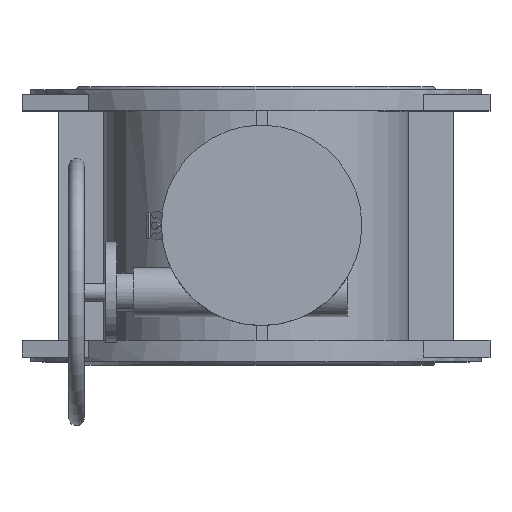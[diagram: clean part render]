
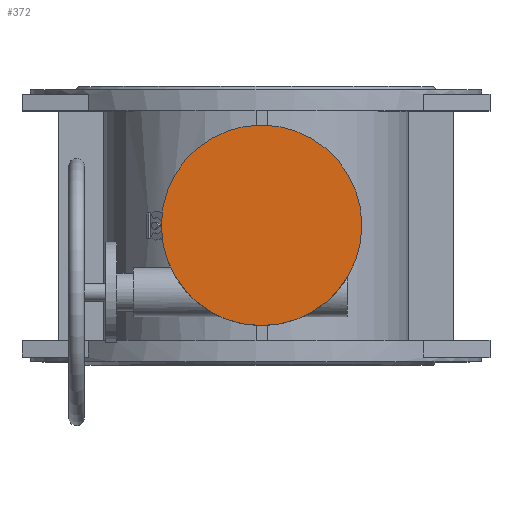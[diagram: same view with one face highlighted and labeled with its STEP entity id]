
A CAD part, top view. The second image highlights one B-rep face of the part: STEP entity #372.
In plain terms, the highlighted planar face has unit normal (0, 0, 1).
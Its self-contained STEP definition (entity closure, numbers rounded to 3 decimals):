
#372=ADVANCED_FACE('',(#1948),#1950,.T.);
#1948=FACE_BOUND('',#1949,.T.);
#1949=EDGE_LOOP('',(#3328));
#1950=PLANE('',#1951);
#1951=AXIS2_PLACEMENT_3D('',#1952,#1953,#1954);
#1952=CARTESIAN_POINT('',(5.,0.,309.));
#1953=DIRECTION('',(0.,0.,1.));
#1954=DIRECTION('',(0.,-1.,0.));
#3328=ORIENTED_EDGE('',*,*,#3883,.T.);
#3883=EDGE_CURVE('',#4297,#4297,#4298,.T.);
#4297=VERTEX_POINT('',#5194);
#4298=CIRCLE('',#5195,90.);
#5194=CARTESIAN_POINT('',(5.,-90.,309.));
#5195=AXIS2_PLACEMENT_3D('',#5196,#5197,#5198);
#5196=CARTESIAN_POINT('',(5.,0.,309.));
#5197=DIRECTION('',(0.,0.,1.));
#5198=DIRECTION('',(0.,-1.,0.));
